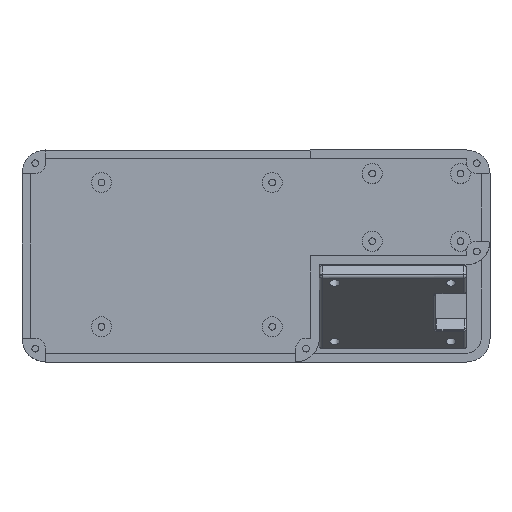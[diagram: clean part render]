
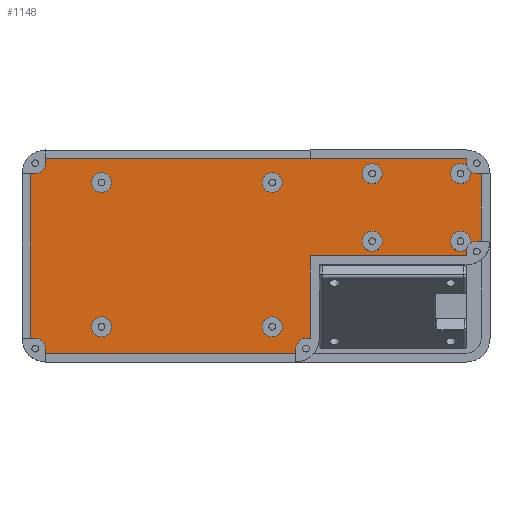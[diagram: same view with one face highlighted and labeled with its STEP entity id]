
A CAD part, top view. The second image highlights one B-rep face of the part: STEP entity #1148.
In plain terms, the highlighted planar face has unit normal (0, 0, 1).
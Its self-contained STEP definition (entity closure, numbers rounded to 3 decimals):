
#340=CARTESIAN_POINT('',(95.,8.5,-1.));
#341=VERTEX_POINT('',#340);
#348=CARTESIAN_POINT('',(90.,3.5,-1.));
#349=VERTEX_POINT('',#348);
#350=CARTESIAN_POINT('',(90.,8.5,-1.));
#351=DIRECTION('',(0.,0.,1.));
#352=DIRECTION('',(0.,-1.,0.));
#353=AXIS2_PLACEMENT_3D('',#350,#351,#352);
#354=CIRCLE('',#353,5.);
#355=EDGE_CURVE('',#349,#341,#354,.T.);
#463=CARTESIAN_POINT('',(37.,-24.5,-1.));
#464=VERTEX_POINT('',#463);
#471=CARTESIAN_POINT('',(32.,-29.5,-1.));
#472=VERTEX_POINT('',#471);
#473=CARTESIAN_POINT('',(32.,-24.5,-1.));
#474=DIRECTION('',(0.,0.,1.));
#475=DIRECTION('',(0.,-1.,0.));
#476=AXIS2_PLACEMENT_3D('',#473,#474,#475);
#477=CIRCLE('',#476,5.);
#478=EDGE_CURVE('',#472,#464,#477,.T.);
#544=CARTESIAN_POINT('',(37.,3.5,-1.));
#545=VERTEX_POINT('',#544);
#546=CARTESIAN_POINT('',(37.,-24.5,-1.));
#547=DIRECTION('',(0.,1.,-0.));
#548=VECTOR('',#547,28.);
#549=LINE('',#546,#548);
#550=EDGE_CURVE('',#464,#545,#549,.T.);
#826=CARTESIAN_POINT('',(-53.,-29.5,-1.));
#827=VERTEX_POINT('',#826);
#828=CARTESIAN_POINT('',(-53.,-29.5,-1.));
#829=DIRECTION('',(1.,0.,-0.));
#830=VECTOR('',#829,85.);
#831=LINE('',#828,#830);
#832=EDGE_CURVE('',#827,#472,#831,.T.);
#910=CARTESIAN_POINT('',(95.,31.5,-1.));
#911=VERTEX_POINT('',#910);
#912=CARTESIAN_POINT('',(95.,8.5,-1.));
#913=DIRECTION('',(0.,1.,-0.));
#914=VECTOR('',#913,23.);
#915=LINE('',#912,#914);
#916=EDGE_CURVE('',#341,#911,#915,.T.);
#929=CARTESIAN_POINT('',(60.926,-16.481,-1.));
#930=DIRECTION('',(0.,0.,1.));
#931=DIRECTION('',(0.,-1.,0.));
#932=AXIS2_PLACEMENT_3D('',#929,#930,#931);
#933=PLANE('',#932);
#934=ORIENTED_EDGE('',*,*,#550,.T.);
#935=CARTESIAN_POINT('',(37.,3.5,-1.));
#936=DIRECTION('',(1.,-0.,0.));
#937=VECTOR('',#936,53.);
#938=LINE('',#935,#937);
#939=EDGE_CURVE('',#545,#349,#938,.T.);
#940=ORIENTED_EDGE('',*,*,#939,.T.);
#941=ORIENTED_EDGE('',*,*,#355,.T.);
#942=ORIENTED_EDGE('',*,*,#916,.T.);
#943=CARTESIAN_POINT('',(90.,36.5,-1.));
#944=VERTEX_POINT('',#943);
#945=CARTESIAN_POINT('',(90.,31.5,-1.));
#946=DIRECTION('',(0.,0.,1.));
#947=DIRECTION('',(0.,-1.,0.));
#948=AXIS2_PLACEMENT_3D('',#945,#946,#947);
#949=CIRCLE('',#948,5.);
#950=EDGE_CURVE('',#911,#944,#949,.T.);
#951=ORIENTED_EDGE('',*,*,#950,.T.);
#952=CARTESIAN_POINT('',(-53.,36.5,-1.));
#953=VERTEX_POINT('',#952);
#954=CARTESIAN_POINT('',(90.,36.5,-1.));
#955=DIRECTION('',(-1.,-0.,0.));
#956=VECTOR('',#955,143.);
#957=LINE('',#954,#956);
#958=EDGE_CURVE('',#944,#953,#957,.T.);
#959=ORIENTED_EDGE('',*,*,#958,.T.);
#960=CARTESIAN_POINT('',(-58.,31.5,-1.));
#961=VERTEX_POINT('',#960);
#962=CARTESIAN_POINT('',(-53.,31.5,-1.));
#963=DIRECTION('',(0.,0.,1.));
#964=DIRECTION('',(0.,-1.,0.));
#965=AXIS2_PLACEMENT_3D('',#962,#963,#964);
#966=CIRCLE('',#965,5.);
#967=EDGE_CURVE('',#953,#961,#966,.T.);
#968=ORIENTED_EDGE('',*,*,#967,.T.);
#969=CARTESIAN_POINT('',(-58.,-24.5,-1.));
#970=VERTEX_POINT('',#969);
#971=CARTESIAN_POINT('',(-58.,31.5,-1.));
#972=DIRECTION('',(-0.,-1.,0.));
#973=VECTOR('',#972,56.);
#974=LINE('',#971,#973);
#975=EDGE_CURVE('',#961,#970,#974,.T.);
#976=ORIENTED_EDGE('',*,*,#975,.T.);
#977=CARTESIAN_POINT('',(-53.,-24.5,-1.));
#978=DIRECTION('',(0.,0.,1.));
#979=DIRECTION('',(0.,-1.,0.));
#980=AXIS2_PLACEMENT_3D('',#977,#978,#979);
#981=CIRCLE('',#980,5.);
#982=EDGE_CURVE('',#970,#827,#981,.T.);
#983=ORIENTED_EDGE('',*,*,#982,.T.);
#984=ORIENTED_EDGE('',*,*,#832,.T.);
#985=ORIENTED_EDGE('',*,*,#478,.T.);
#986=EDGE_LOOP('',(#934,#940,#941,#942,#951,#959,#968,#976,#983,#984,#985));
#987=FACE_BOUND('',#986,.T.);
#988=CARTESIAN_POINT('',(58.,28.1,-1.));
#989=VERTEX_POINT('',#988);
#990=CARTESIAN_POINT('',(61.4,31.5,-1.));
#991=VERTEX_POINT('',#990);
#992=CARTESIAN_POINT('',(58.,31.5,-1.));
#993=DIRECTION('',(-0.,-0.,-1.));
#994=DIRECTION('',(0.,-1.,0.));
#995=AXIS2_PLACEMENT_3D('',#992,#993,#994);
#996=CIRCLE('',#995,3.4);
#997=EDGE_CURVE('',#989,#991,#996,.T.);
#998=ORIENTED_EDGE('',*,*,#997,.T.);
#999=CARTESIAN_POINT('',(58.,31.5,-1.));
#1000=DIRECTION('',(-0.,-0.,-1.));
#1001=DIRECTION('',(0.,-1.,0.));
#1002=AXIS2_PLACEMENT_3D('',#999,#1000,#1001);
#1003=CIRCLE('',#1002,3.4);
#1004=EDGE_CURVE('',#991,#989,#1003,.T.);
#1005=ORIENTED_EDGE('',*,*,#1004,.T.);
#1006=EDGE_LOOP('',(#998,#1005));
#1007=FACE_BOUND('',#1006,.T.);
#1008=CARTESIAN_POINT('',(24.,-23.9,-1.));
#1009=VERTEX_POINT('',#1008);
#1010=CARTESIAN_POINT('',(27.4,-20.5,-1.));
#1011=VERTEX_POINT('',#1010);
#1012=CARTESIAN_POINT('',(24.,-20.5,-1.));
#1013=DIRECTION('',(-0.,-0.,-1.));
#1014=DIRECTION('',(0.,-1.,0.));
#1015=AXIS2_PLACEMENT_3D('',#1012,#1013,#1014);
#1016=CIRCLE('',#1015,3.4);
#1017=EDGE_CURVE('',#1009,#1011,#1016,.T.);
#1018=ORIENTED_EDGE('',*,*,#1017,.T.);
#1019=CARTESIAN_POINT('',(24.,-20.5,-1.));
#1020=DIRECTION('',(-0.,-0.,-1.));
#1021=DIRECTION('',(0.,-1.,0.));
#1022=AXIS2_PLACEMENT_3D('',#1019,#1020,#1021);
#1023=CIRCLE('',#1022,3.4);
#1024=EDGE_CURVE('',#1011,#1009,#1023,.T.);
#1025=ORIENTED_EDGE('',*,*,#1024,.T.);
#1026=EDGE_LOOP('',(#1018,#1025));
#1027=FACE_BOUND('',#1026,.T.);
#1028=CARTESIAN_POINT('',(-34.,25.1,-1.));
#1029=VERTEX_POINT('',#1028);
#1030=CARTESIAN_POINT('',(-30.6,28.5,-1.));
#1031=VERTEX_POINT('',#1030);
#1032=CARTESIAN_POINT('',(-34.,28.5,-1.));
#1033=DIRECTION('',(-0.,-0.,-1.));
#1034=DIRECTION('',(0.,-1.,0.));
#1035=AXIS2_PLACEMENT_3D('',#1032,#1033,#1034);
#1036=CIRCLE('',#1035,3.4);
#1037=EDGE_CURVE('',#1029,#1031,#1036,.T.);
#1038=ORIENTED_EDGE('',*,*,#1037,.T.);
#1039=CARTESIAN_POINT('',(-34.,28.5,-1.));
#1040=DIRECTION('',(-0.,-0.,-1.));
#1041=DIRECTION('',(0.,-1.,0.));
#1042=AXIS2_PLACEMENT_3D('',#1039,#1040,#1041);
#1043=CIRCLE('',#1042,3.4);
#1044=EDGE_CURVE('',#1031,#1029,#1043,.T.);
#1045=ORIENTED_EDGE('',*,*,#1044,.T.);
#1046=EDGE_LOOP('',(#1038,#1045));
#1047=FACE_BOUND('',#1046,.T.);
#1048=CARTESIAN_POINT('',(58.,5.1,-1.));
#1049=VERTEX_POINT('',#1048);
#1050=CARTESIAN_POINT('',(61.4,8.5,-1.));
#1051=VERTEX_POINT('',#1050);
#1052=CARTESIAN_POINT('',(58.,8.5,-1.));
#1053=DIRECTION('',(-0.,-0.,-1.));
#1054=DIRECTION('',(0.,-1.,0.));
#1055=AXIS2_PLACEMENT_3D('',#1052,#1053,#1054);
#1056=CIRCLE('',#1055,3.4);
#1057=EDGE_CURVE('',#1049,#1051,#1056,.T.);
#1058=ORIENTED_EDGE('',*,*,#1057,.T.);
#1059=CARTESIAN_POINT('',(58.,8.5,-1.));
#1060=DIRECTION('',(-0.,-0.,-1.));
#1061=DIRECTION('',(0.,-1.,0.));
#1062=AXIS2_PLACEMENT_3D('',#1059,#1060,#1061);
#1063=CIRCLE('',#1062,3.4);
#1064=EDGE_CURVE('',#1051,#1049,#1063,.T.);
#1065=ORIENTED_EDGE('',*,*,#1064,.T.);
#1066=EDGE_LOOP('',(#1058,#1065));
#1067=FACE_BOUND('',#1066,.T.);
#1068=CARTESIAN_POINT('',(88.,5.1,-1.));
#1069=VERTEX_POINT('',#1068);
#1070=CARTESIAN_POINT('',(91.4,8.5,-1.));
#1071=VERTEX_POINT('',#1070);
#1072=CARTESIAN_POINT('',(88.,8.5,-1.));
#1073=DIRECTION('',(-0.,-0.,-1.));
#1074=DIRECTION('',(0.,-1.,0.));
#1075=AXIS2_PLACEMENT_3D('',#1072,#1073,#1074);
#1076=CIRCLE('',#1075,3.4);
#1077=EDGE_CURVE('',#1069,#1071,#1076,.T.);
#1078=ORIENTED_EDGE('',*,*,#1077,.T.);
#1079=CARTESIAN_POINT('',(88.,8.5,-1.));
#1080=DIRECTION('',(-0.,-0.,-1.));
#1081=DIRECTION('',(0.,-1.,0.));
#1082=AXIS2_PLACEMENT_3D('',#1079,#1080,#1081);
#1083=CIRCLE('',#1082,3.4);
#1084=EDGE_CURVE('',#1071,#1069,#1083,.T.);
#1085=ORIENTED_EDGE('',*,*,#1084,.T.);
#1086=EDGE_LOOP('',(#1078,#1085));
#1087=FACE_BOUND('',#1086,.T.);
#1088=CARTESIAN_POINT('',(24.,25.1,-1.));
#1089=VERTEX_POINT('',#1088);
#1090=CARTESIAN_POINT('',(27.4,28.5,-1.));
#1091=VERTEX_POINT('',#1090);
#1092=CARTESIAN_POINT('',(24.,28.5,-1.));
#1093=DIRECTION('',(-0.,-0.,-1.));
#1094=DIRECTION('',(0.,-1.,0.));
#1095=AXIS2_PLACEMENT_3D('',#1092,#1093,#1094);
#1096=CIRCLE('',#1095,3.4);
#1097=EDGE_CURVE('',#1089,#1091,#1096,.T.);
#1098=ORIENTED_EDGE('',*,*,#1097,.T.);
#1099=CARTESIAN_POINT('',(24.,28.5,-1.));
#1100=DIRECTION('',(-0.,-0.,-1.));
#1101=DIRECTION('',(0.,-1.,0.));
#1102=AXIS2_PLACEMENT_3D('',#1099,#1100,#1101);
#1103=CIRCLE('',#1102,3.4);
#1104=EDGE_CURVE('',#1091,#1089,#1103,.T.);
#1105=ORIENTED_EDGE('',*,*,#1104,.T.);
#1106=EDGE_LOOP('',(#1098,#1105));
#1107=FACE_BOUND('',#1106,.T.);
#1108=CARTESIAN_POINT('',(-34.,-23.9,-1.));
#1109=VERTEX_POINT('',#1108);
#1110=CARTESIAN_POINT('',(-30.6,-20.5,-1.));
#1111=VERTEX_POINT('',#1110);
#1112=CARTESIAN_POINT('',(-34.,-20.5,-1.));
#1113=DIRECTION('',(-0.,-0.,-1.));
#1114=DIRECTION('',(0.,-1.,0.));
#1115=AXIS2_PLACEMENT_3D('',#1112,#1113,#1114);
#1116=CIRCLE('',#1115,3.4);
#1117=EDGE_CURVE('',#1109,#1111,#1116,.T.);
#1118=ORIENTED_EDGE('',*,*,#1117,.T.);
#1119=CARTESIAN_POINT('',(-34.,-20.5,-1.));
#1120=DIRECTION('',(-0.,-0.,-1.));
#1121=DIRECTION('',(0.,-1.,0.));
#1122=AXIS2_PLACEMENT_3D('',#1119,#1120,#1121);
#1123=CIRCLE('',#1122,3.4);
#1124=EDGE_CURVE('',#1111,#1109,#1123,.T.);
#1125=ORIENTED_EDGE('',*,*,#1124,.T.);
#1126=EDGE_LOOP('',(#1118,#1125));
#1127=FACE_BOUND('',#1126,.T.);
#1128=CARTESIAN_POINT('',(88.,28.1,-1.));
#1129=VERTEX_POINT('',#1128);
#1130=CARTESIAN_POINT('',(91.4,31.5,-1.));
#1131=VERTEX_POINT('',#1130);
#1132=CARTESIAN_POINT('',(88.,31.5,-1.));
#1133=DIRECTION('',(-0.,-0.,-1.));
#1134=DIRECTION('',(0.,-1.,0.));
#1135=AXIS2_PLACEMENT_3D('',#1132,#1133,#1134);
#1136=CIRCLE('',#1135,3.4);
#1137=EDGE_CURVE('',#1129,#1131,#1136,.T.);
#1138=ORIENTED_EDGE('',*,*,#1137,.T.);
#1139=CARTESIAN_POINT('',(88.,31.5,-1.));
#1140=DIRECTION('',(-0.,-0.,-1.));
#1141=DIRECTION('',(0.,-1.,0.));
#1142=AXIS2_PLACEMENT_3D('',#1139,#1140,#1141);
#1143=CIRCLE('',#1142,3.4);
#1144=EDGE_CURVE('',#1131,#1129,#1143,.T.);
#1145=ORIENTED_EDGE('',*,*,#1144,.T.);
#1146=EDGE_LOOP('',(#1138,#1145));
#1147=FACE_BOUND('',#1146,.T.);
#1148=ADVANCED_FACE('',(#987,#1007,#1027,#1047,#1067,#1087,#1107,#1127,#1147),#933,.T.);
